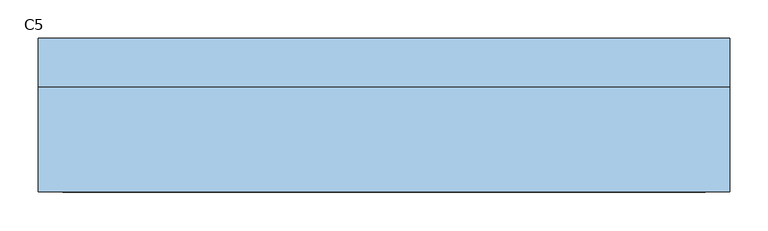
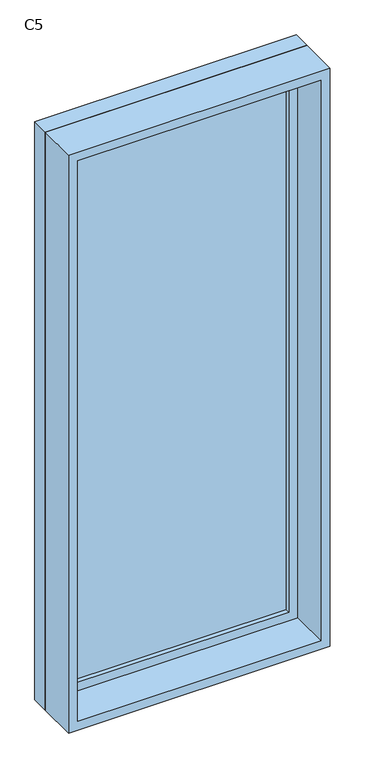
"""IFC4 building model written with IfcOpenShell, lengths in millimetres: window geometry, 固定 : C5."""

import ifcopenshell
import ifcopenshell.guid

model = None  # the IFC model being written
_history = None  # IfcOwnerHistory: only IFC2X3 demands one
_inside = {}  # id of a spatial element -> (the spatial element, [elements in it])
_under = {}  # id of a project, library or spatial element -> (it, [spatial elements below it])
_declared = {}  # id of a project -> (the project, [libraries it declares])
_typed = {}  # id of a type object -> (the type object, [elements of that type])
_made_of = {}  # id of a material, layer set ... -> (it, [elements and type objects made of it])


def new_model(schema):
    """Start an empty IFC model of exactly this schema.

    Asked for "IFC4X3", IfcOpenShell would pick the latest addendum, in which some entities
    have other attributes; the version numbers below select the first issue.
    IFC2X3 requires an IfcOwnerHistory on every rooted entity: one is made here for all.
    """
    global model, _history
    if schema == "IFC4X3":
        model = ifcopenshell.file(schema_version=(4, 3, 0, 0))
    else:
        model = ifcopenshell.file(schema=schema)
    _inside.clear()
    _under.clear()
    _declared.clear()
    _typed.clear()
    _made_of.clear()
    _history = None
    if model.schema == "IFC2X3":
        org = make("IfcOrganization", Name="unknown")
        user = make(
            "IfcPersonAndOrganization",
            ThePerson=make("IfcPerson", FamilyName="unknown"),
            TheOrganization=org,
        )
        app = make(
            "IfcApplication",
            ApplicationDeveloper=org,
            Version="unknown",
            ApplicationFullName="unknown",
            ApplicationIdentifier="unknown",
        )
        _history = make(
            "IfcOwnerHistory",
            OwningUser=user,
            OwningApplication=app,
            ChangeAction="ADDED",
            CreationDate=0,
        )
    return model


def make(cls, **values):
    """One entity of the class cls with the attributes given. An attribute that is None is left unset."""
    return model.create_entity(
        cls, **{name: value for name, value in values.items() if value is not None}
    )


def rooted(cls, **values):
    """An entity with a GlobalId (a new one), such as an element, a storey or a relation."""
    return make(cls, GlobalId=ifcopenshell.guid.new(), OwnerHistory=_history, **values)


def si_unit(unit_type, name, prefix=None):
    """IfcSIUnit, for example si_unit("LENGTHUNIT", "METRE", prefix="MILLI")."""
    return make("IfcSIUnit", UnitType=unit_type, Prefix=prefix, Name=name)


def assignment(units):
    """IfcUnitAssignment: the units of a project."""
    return None if units is None else make("IfcUnitAssignment", Units=units)


def point(xyz):
    """IfcCartesianPoint."""
    return None if xyz is None else make("IfcCartesianPoint", Coordinates=xyz)


def direction(xyz):
    """IfcDirection."""
    return None if xyz is None else make("IfcDirection", DirectionRatios=xyz)


def frame(location, z_axis=None, x_axis=None):
    """IfcAxis2Placement3D, a coordinate frame: its origin and axes. An axis left out is left unset."""
    return make(
        "IfcAxis2Placement3D",
        Location=point(location),
        Axis=direction(z_axis),
        RefDirection=direction(x_axis),
    )


def origin():
    """The frame at (0, 0, 0) with its axes left unset."""
    return frame((0.0, 0.0, 0.0))


def place(relative_to, where):
    """IfcLocalPlacement: puts the frame where relative to a parent placement (None: the world)."""
    return make(
        "IfcLocalPlacement", PlacementRelTo=relative_to, RelativePlacement=where
    )


def context(
    kind, dimensions, precision=None, world=None, true_north=None, identifier=None
):
    """IfcGeometricRepresentationContext, for example the 3D "Model" context."""
    return make(
        "IfcGeometricRepresentationContext",
        ContextIdentifier=identifier,
        ContextType=kind,
        CoordinateSpaceDimension=dimensions,
        Precision=precision,
        WorldCoordinateSystem=world,
        TrueNorth=true_north,
    )


def project(units=None, contexts=None):
    """IfcProject with its units and contexts."""
    return rooted(
        "IfcProject",
        Name="project",
        RepresentationContexts=contexts,
        UnitsInContext=assignment(units),
    )


def spatial(cls, under=None, at=None, **own):
    """A site, building, storey or space (cls), placed at a placement, below another one or the project."""
    s = rooted(cls, ObjectPlacement=at, **own)
    if under is not None:
        _under.setdefault(under.id(), (under, []))[1].append(s)
    return s


def polyline(points):
    """IfcPolyline through the points."""
    return make("IfcPolyline", Points=[point(p) for p in points])


def outline(outer, holes=None, kind="AREA"):
    """IfcArbitraryClosedProfileDef: a profile drawn as a closed curve; with holes, ...WithVoids."""
    if holes is None:
        return make("IfcArbitraryClosedProfileDef", ProfileType=kind, OuterCurve=outer)
    return make(
        "IfcArbitraryProfileDefWithVoids",
        ProfileType=kind,
        OuterCurve=outer,
        InnerCurves=holes,
    )


def extrude(swept, where, along, depth):
    """IfcExtrudedAreaSolid: the profile swept, set in the frame where, extruded along a direction by depth."""
    return make(
        "IfcExtrudedAreaSolid",
        SweptArea=swept,
        Position=where,
        ExtrudedDirection=direction(along),
        Depth=depth,
    )


def shape(context_of_items, identifier, shape_type, items):
    """IfcShapeRepresentation: the items that make up one representation, for example the "Body"."""
    return make(
        "IfcShapeRepresentation",
        ContextOfItems=context_of_items,
        RepresentationIdentifier=identifier,
        RepresentationType=shape_type,
        Items=items,
    )


def source(mapping_origin, context_of_items, identifier, shape_type, items):
    """IfcRepresentationMap: a shape defined once, which mapped items show again and again."""
    return make(
        "IfcRepresentationMap",
        MappingOrigin=mapping_origin,
        MappedRepresentation=shape(context_of_items, identifier, shape_type, items),
    )


def transform(
    local_origin,
    x_axis=None,
    y_axis=None,
    z_axis=None,
    scale=None,
    scale2=None,
    scale3=None,
    uniform=True,
):
    """IfcCartesianTransformationOperator3D, or its non-uniform kind. x_axis, y_axis, z_axis: its Axis1, 2, 3."""
    if uniform:
        return make(
            "IfcCartesianTransformationOperator3D",
            Axis1=direction(x_axis),
            Axis2=direction(y_axis),
            LocalOrigin=point(local_origin),
            Scale=scale,
            Axis3=direction(z_axis),
        )
    return make(
        "IfcCartesianTransformationOperator3DnonUniform",
        Axis1=direction(x_axis),
        Axis2=direction(y_axis),
        LocalOrigin=point(local_origin),
        Scale=scale,
        Axis3=direction(z_axis),
        Scale2=scale2,
        Scale3=scale3,
    )


def mapped(mapping_source, mapping_target):
    """IfcMappedItem: shows the shape of a source again, moved by a transform."""
    return make(
        "IfcMappedItem", MappingSource=mapping_source, MappingTarget=mapping_target
    )


def made_of(thing, what):
    """Note that an element or type object is made of a material, layer set ...; save() writes the relation."""
    if what is not None:
        _made_of.setdefault(what.id(), (what, []))[1].append(thing)
    return thing


def element(
    cls,
    number,
    at=None,
    inside=None,
    cuts=None,
    type_object=None,
    material=None,
    context=None,
    identifier="Body",
    shape_type=None,
    held_by="IfcProductDefinitionShape",
    body=None,
    shapes=None,
    **own,
):
    """One element of the class cls, such as IfcWall. Its Tag is "e" and its number.

    at: its placement. inside: the storey or other place that contains it. cuts: it is an
    opening in that element (IfcRelVoidsElement). A single representation is given by context,
    identifier, shape_type and body (its items); several are given by shapes. held_by: the class
    of the entity that holds the representations. save() writes the other relations.
    """
    e = rooted(cls, Tag="e%d" % number, ObjectPlacement=at, **own)
    if body is not None:
        shapes = [shape(context, identifier, shape_type, body)]
    if shapes is not None:
        e.Representation = make(held_by, Representations=shapes)
    if inside is not None:
        _inside.setdefault(inside.id(), (inside, []))[1].append(e)
    if cuts is not None:
        rooted(
            "IfcRelVoidsElement", RelatingBuildingElement=cuts, RelatedOpeningElement=e
        )
    if type_object is not None:
        _typed.setdefault(type_object.id(), (type_object, []))[1].append(e)
    return made_of(e, material)


def aggregate(whole, parts):
    """IfcRelAggregates: a whole, such as a stair, and the parts it consists of."""
    return rooted("IfcRelAggregates", RelatingObject=whole, RelatedObjects=parts)


def save(model, path):
    """Write the relations noted so far, then the file.

    IfcRelAggregates (storeys below a building ...), IfcRelContainedInSpatialStructure (elements
    in a storey), IfcRelDefinesByType, IfcRelAssociatesMaterial and IfcRelDeclares: one each for
    every whole, place, type object, material and project.
    """
    for whole, parts in _under.values():
        aggregate(whole, parts)
    for where, things in _inside.values():
        rooted(
            "IfcRelContainedInSpatialStructure",
            RelatedElements=things,
            RelatingStructure=where,
        )
    for kind, things in _typed.values():
        rooted("IfcRelDefinesByType", RelatedObjects=things, RelatingType=kind)
    for what, things in _made_of.values():
        rooted("IfcRelAssociatesMaterial", RelatedObjects=things, RelatingMaterial=what)
    for by, libraries in _declared.values():
        rooted("IfcRelDeclares", RelatingContext=by, RelatedDefinitions=libraries)
    model.write(path)


def c5_e6b0c997(model_context):
    return source(origin(), model_context, "Body", "SweptSolid", [
        extrude(outline(polyline([(-387.0, 78.0), (387.0, 78.0), (387.0, 66.0), (-387.0, 66.0), (-387.0, 78.0)])), frame((0.0, 0.0, 963.0), z_axis=(0.0, 0.0, 1.0), x_axis=(1.0, 0.0, 0.0)), (0.0, 0.0, 1.0), 1974.0),
        extrude(outline(polyline([(2981.0, -431.0), (919.0, -431.0), (919.0, 431.0), (2981.0, 431.0), (2981.0, -431.0)]), holes=[polyline([(2937.0, -387.0), (2937.0, 387.0), (963.0, 387.0), (963.0, -387.0), (2937.0, -387.0)])]), frame((0.0, 50.0, 0.0), z_axis=(0.0, 1.0, 0.0), x_axis=(0.0, 0.0, 1.0)), (0.0, 0.0, 1.0), 44.0),
        extrude(outline(polyline([(3000.0, -450.0), (900.0, -450.0), (900.0, 450.0), (3000.0, 450.0), (3000.0, -450.0)]), holes=[polyline([(2981.0, -431.0), (2981.0, 431.0), (919.0, 431.0), (919.0, -431.0), (2981.0, -431.0)])]), frame((0.0, 50.0, 0.0), z_axis=(0.0, 1.0, 0.0), x_axis=(0.0, 0.0, 1.0)), (0.0, 0.0, 1.0), 63.0),
        extrude(outline(polyline([(3000.0, -450.0), (900.0, -450.0), (900.0, 450.0), (3000.0, 450.0), (3000.0, -450.0)]), holes=[polyline([(2968.0, -418.0), (2968.0, 418.0), (932.0, 418.0), (932.0, -418.0), (2968.0, -418.0)])]), frame((0.0, -87.0, 0.0), z_axis=(0.0, 1.0, 0.0), x_axis=(0.0, 0.0, 1.0)), (0.0, 0.0, 1.0), 137.0),
    ])


if __name__ == "__main__":
    model = new_model("IFC4")
    model_context = context("Model", 3, world=origin())
    ifc_project = project(units=[si_unit("LENGTHUNIT", "METRE", prefix="MILLI")], contexts=[model_context])
    site = spatial("IfcSite", under=ifc_project)
    building = spatial("IfcBuilding", under=site)
    placement = place(None, origin())
    c5_shape = c5_e6b0c997(model_context)
    element("IfcWindow", 1, ObjectType="固定 : C5", at=placement, inside=building, context=model_context, shape_type="MappedRepresentation", body=[
        mapped(c5_shape, transform((0.0, 0.0, 0.0), x_axis=(1.0, 0.0, 0.0), y_axis=(0.0, 1.0, 0.0), z_axis=(0.0, 0.0, 1.0))),
    ])
    save(model, "model.ifc")
